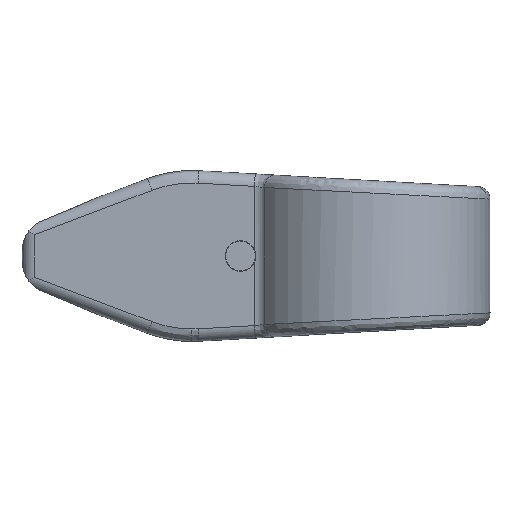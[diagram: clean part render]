
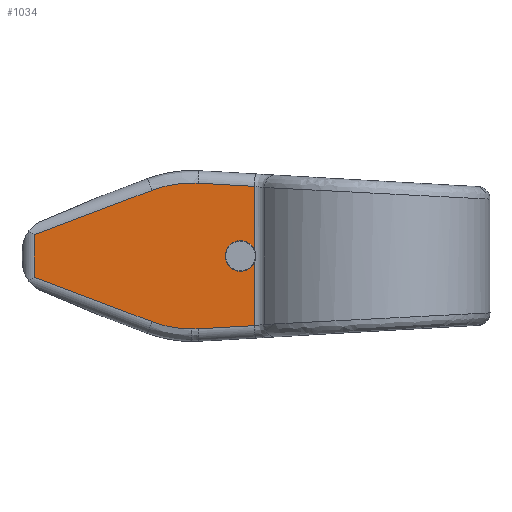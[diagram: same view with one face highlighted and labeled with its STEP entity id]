
A CAD part, left-side view. The second image highlights one B-rep face of the part: STEP entity #1034.
In plain terms, the highlighted planar face has unit normal (-1, 0, 0).
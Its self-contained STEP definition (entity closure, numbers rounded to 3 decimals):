
#33 = VERTEX_POINT ( 'NONE', #2335 ) ;
#64 = DIRECTION ( 'NONE',  ( 0., 0., -1. ) ) ;
#121 = CARTESIAN_POINT ( 'NONE',  ( -11., 29.957, 3.4 ) ) ;
#205 = VECTOR ( 'NONE', #6439, 1000. ) ;
#210 = CIRCLE ( 'NONE', #3615, 2.459 ) ;
#253 = ORIENTED_EDGE ( 'NONE', *, *, #2575, .T. ) ;
#431 = DIRECTION ( 'NONE',  ( 1., 0., 0. ) ) ;
#490 = CARTESIAN_POINT ( 'NONE',  ( -11., 33.139, 25.919 ) ) ;
#787 = DIRECTION ( 'NONE',  ( 0., 0., 1. ) ) ;
#803 = CARTESIAN_POINT ( 'NONE',  ( -11., 26.765, 26.668 ) ) ;
#833 = AXIS2_PLACEMENT_3D ( 'NONE', #5221, #431, #5755 ) ;
#837 = B_SPLINE_CURVE_WITH_KNOTS ( 'NONE', 3,
 ( #2263, #3803, #4938, #121, #3781, #3849 ),
 .UNSPECIFIED., .F., .F.,
 ( 4, 2, 4 ),
 ( 0., 0.5, 1. ),
 .UNSPECIFIED. ) ;
#838 = CARTESIAN_POINT ( 'NONE',  ( -11., 27.449, 3.302 ) ) ;
#886 = CARTESIAN_POINT ( 'NONE',  ( -11., 20., 12.542 ) ) ;
#937 = VERTEX_POINT ( 'NONE', #5609 ) ;
#960 = VERTEX_POINT ( 'NONE', #886 ) ;
#988 = CARTESIAN_POINT ( 'NONE',  ( -11., 27.792, 26.698 ) ) ;
#1026 = EDGE_CURVE ( 'NONE', #2699, #960, #210, .T. ) ;
#1034 = ADVANCED_FACE ( 'NONE', ( #5682 ), #6878, .T. ) ;
#1053 = DIRECTION ( 'NONE',  ( 0., 0., 1. ) ) ;
#1075 = LINE ( 'NONE', #2887, #6357 ) ;
#1088 = ORIENTED_EDGE ( 'NONE', *, *, #2617, .F. ) ;
#1238 = ORIENTED_EDGE ( 'NONE', *, *, #3705, .T. ) ;
#1277 = DIRECTION ( 'NONE',  ( 1., 0., 0. ) ) ;
#1356 = LINE ( 'NONE', #6476, #3804 ) ;
#1389 = EDGE_CURVE ( 'NONE', #2545, #33, #837, .T. ) ;
#1436 = VECTOR ( 'NONE', #5038, 1000. ) ;
#1466 = CARTESIAN_POINT ( 'NONE',  ( -11., 34.156, 25.535 ) ) ;
#1633 = CARTESIAN_POINT ( 'NONE',  ( -11., 34.156, 25.535 ) ) ;
#1658 = ORIENTED_EDGE ( 'NONE', *, *, #4310, .T. ) ;
#1664 = LINE ( 'NONE', #5767, #2559 ) ;
#1781 = CARTESIAN_POINT ( 'NONE',  ( -11., 20., 15. ) ) ;
#1830 = DIRECTION ( 'NONE',  ( 0., -0.998, 0.057 ) ) ;
#1933 = CARTESIAN_POINT ( 'NONE',  ( -11., 27.792, 3.302 ) ) ;
#1966 = CARTESIAN_POINT ( 'NONE',  ( -11., 27.107, 3.312 ) ) ;
#2062 = CARTESIAN_POINT ( 'NONE',  ( -11., 28.879, 26.698 ) ) ;
#2240 = EDGE_CURVE ( 'NONE', #5093, #937, #1356, .T. ) ;
#2263 = CARTESIAN_POINT ( 'NONE',  ( -11., 34.156, 4.465 ) ) ;
#2274 = VERTEX_POINT ( 'NONE', #3974 ) ;
#2335 = CARTESIAN_POINT ( 'NONE',  ( -11., 27.792, 3.302 ) ) ;
#2456 = ORIENTED_EDGE ( 'NONE', *, *, #5346, .T. ) ;
#2545 = VERTEX_POINT ( 'NONE', #5041 ) ;
#2559 = VECTOR ( 'NONE', #64, 1000. ) ;
#2575 = EDGE_CURVE ( 'NONE', #960, #6583, #4217, .T. ) ;
#2617 = EDGE_CURVE ( 'NONE', #5093, #33, #3057, .T. ) ;
#2699 = VERTEX_POINT ( 'NONE', #6387 ) ;
#2707 = ORIENTED_EDGE ( 'NONE', *, *, #3981, .T. ) ;
#2887 = CARTESIAN_POINT ( 'NONE',  ( -11., 17.748, 0. ) ) ;
#3033 = CARTESIAN_POINT ( 'NONE',  ( -11., 17.748, 26.153 ) ) ;
#3057 =( BOUNDED_CURVE ( )  B_SPLINE_CURVE ( 3, ( #5640, #1966, #838, #1933 ),
 .UNSPECIFIED., .F., .F. ) 
 B_SPLINE_CURVE_WITH_KNOTS ( ( 4, 4 ),
 ( 0., 1. ),
 .UNSPECIFIED. ) 
 CURVE ( )  GEOMETRIC_REPRESENTATION_ITEM ( )  RATIONAL_B_SPLINE_CURVE ( ( 1., 1., 1., 1. ) ) 
 REPRESENTATION_ITEM ( '' )  );
#3098 = ORIENTED_EDGE ( 'NONE', *, *, #4358, .T. ) ;
#3099 = ORIENTED_EDGE ( 'NONE', *, *, #1026, .T. ) ;
#3141 = DIRECTION ( 'NONE',  ( 1., 0., 0. ) ) ;
#3161 = CARTESIAN_POINT ( 'NONE',  ( -11., 53., 18.412 ) ) ;
#3164 = CARTESIAN_POINT ( 'NONE',  ( -11., 20., 15. ) ) ;
#3189 = ORIENTED_EDGE ( 'NONE', *, *, #4026, .T. ) ;
#3216 = EDGE_CURVE ( 'NONE', #4331, #5033, #5116, .T. ) ;
#3225 = DIRECTION ( 'NONE',  ( 0., 0., 1. ) ) ;
#3545 = LINE ( 'NONE', #4021, #1436 ) ;
#3593 = VECTOR ( 'NONE', #6744, 1000. ) ;
#3615 = AXIS2_PLACEMENT_3D ( 'NONE', #3164, #3141, #3225 ) ;
#3637 = CIRCLE ( 'NONE', #833, 2.459 ) ;
#3675 = DIRECTION ( 'NONE',  ( -1., 0., 0. ) ) ;
#3700 = CARTESIAN_POINT ( 'NONE',  ( -11., 27.107, 26.688 ) ) ;
#3705 = EDGE_CURVE ( 'NONE', #5183, #5150, #1075, .T. ) ;
#3727 = CARTESIAN_POINT ( 'NONE',  ( -11., 17.748, 26.153 ) ) ;
#3781 = CARTESIAN_POINT ( 'NONE',  ( -11., 28.879, 3.302 ) ) ;
#3803 = CARTESIAN_POINT ( 'NONE',  ( -11., 33.139, 4.081 ) ) ;
#3804 = VECTOR ( 'NONE', #1830, 1000. ) ;
#3849 = CARTESIAN_POINT ( 'NONE',  ( -11., 27.792, 3.302 ) ) ;
#3933 = EDGE_CURVE ( 'NONE', #4331, #4242, #6733, .T. ) ;
#3972 = AXIS2_PLACEMENT_3D ( 'NONE', #5334, #3675, #1053 ) ;
#3974 = CARTESIAN_POINT ( 'NONE',  ( -11., 53., 11.588 ) ) ;
#3981 = EDGE_CURVE ( 'NONE', #937, #2699, #5770, .T. ) ;
#4021 = CARTESIAN_POINT ( 'NONE',  ( -11., 53., 11.588 ) ) ;
#4026 = EDGE_CURVE ( 'NONE', #4748, #2274, #1664, .T. ) ;
#4217 = CIRCLE ( 'NONE', #5383, 2.459 ) ;
#4225 = CARTESIAN_POINT ( 'NONE',  ( -11., 26.765, 26.668 ) ) ;
#4242 = VERTEX_POINT ( 'NONE', #803 ) ;
#4245 = ORIENTED_EDGE ( 'NONE', *, *, #6643, .T. ) ;
#4310 = EDGE_CURVE ( 'NONE', #2274, #2545, #3545, .T. ) ;
#4325 = ORIENTED_EDGE ( 'NONE', *, *, #3216, .T. ) ;
#4331 = VERTEX_POINT ( 'NONE', #5110 ) ;
#4358 = EDGE_CURVE ( 'NONE', #6583, #5183, #3637, .T. ) ;
#4417 = ORIENTED_EDGE ( 'NONE', *, *, #1389, .T. ) ;
#4657 = CARTESIAN_POINT ( 'NONE',  ( -11., 34.156, 25.535 ) ) ;
#4748 = VERTEX_POINT ( 'NONE', #3161 ) ;
#4891 = VECTOR ( 'NONE', #5338, 1000. ) ;
#4938 = CARTESIAN_POINT ( 'NONE',  ( -11., 32.096, 3.791 ) ) ;
#5033 = VERTEX_POINT ( 'NONE', #1466 ) ;
#5038 = DIRECTION ( 'NONE',  ( 0., -0.935, -0.354 ) ) ;
#5041 = CARTESIAN_POINT ( 'NONE',  ( -11., 34.156, 4.465 ) ) ;
#5047 = DIRECTION ( 'NONE',  ( 0., 0., 1. ) ) ;
#5093 = VERTEX_POINT ( 'NONE', #6716 ) ;
#5110 = CARTESIAN_POINT ( 'NONE',  ( -11., 27.792, 26.698 ) ) ;
#5116 = B_SPLINE_CURVE_WITH_KNOTS ( 'NONE', 3,
 ( #988, #2062, #5794, #5741, #490, #4657 ),
 .UNSPECIFIED., .F., .F.,
 ( 4, 2, 4 ),
 ( 0., 0.5, 1. ),
 .UNSPECIFIED. ) ;
#5150 = VERTEX_POINT ( 'NONE', #3727 ) ;
#5183 = VERTEX_POINT ( 'NONE', #6374 ) ;
#5221 = CARTESIAN_POINT ( 'NONE',  ( -11., 20., 15. ) ) ;
#5234 = CARTESIAN_POINT ( 'NONE',  ( -11., 17.748, 0. ) ) ;
#5299 = LINE ( 'NONE', #1633, #4891 ) ;
#5334 = CARTESIAN_POINT ( 'NONE',  ( -11., 17.748, 0. ) ) ;
#5338 = DIRECTION ( 'NONE',  ( 0., 0.935, -0.354 ) ) ;
#5346 = EDGE_CURVE ( 'NONE', #5150, #4242, #5749, .T. ) ;
#5383 = AXIS2_PLACEMENT_3D ( 'NONE', #1781, #1277, #787 ) ;
#5595 = CARTESIAN_POINT ( 'NONE',  ( -11., 27.792, 26.698 ) ) ;
#5609 = CARTESIAN_POINT ( 'NONE',  ( -11., 17.748, 3.847 ) ) ;
#5640 = CARTESIAN_POINT ( 'NONE',  ( -11., 26.765, 3.332 ) ) ;
#5682 = FACE_OUTER_BOUND ( 'NONE', #6231, .T. ) ;
#5735 = CARTESIAN_POINT ( 'NONE',  ( -11., 20., 17.459 ) ) ;
#5741 = CARTESIAN_POINT ( 'NONE',  ( -11., 32.096, 26.209 ) ) ;
#5749 = LINE ( 'NONE', #3033, #3593 ) ;
#5755 = DIRECTION ( 'NONE',  ( 0., 0., 1. ) ) ;
#5767 = CARTESIAN_POINT ( 'NONE',  ( -11., 53., 0. ) ) ;
#5770 = LINE ( 'NONE', #5234, #205 ) ;
#5794 = CARTESIAN_POINT ( 'NONE',  ( -11., 29.957, 26.6 ) ) ;
#5992 = ORIENTED_EDGE ( 'NONE', *, *, #2240, .T. ) ;
#6231 = EDGE_LOOP ( 'NONE', ( #3099, #253, #3098, #1238, #2456, #6275, #4325, #4245, #3189, #1658, #4417, #1088, #5992, #2707 ) ) ;
#6275 = ORIENTED_EDGE ( 'NONE', *, *, #3933, .F. ) ;
#6357 = VECTOR ( 'NONE', #5047, 1000. ) ;
#6374 = CARTESIAN_POINT ( 'NONE',  ( -11., 17.748, 15.987 ) ) ;
#6387 = CARTESIAN_POINT ( 'NONE',  ( -11., 17.748, 14.013 ) ) ;
#6439 = DIRECTION ( 'NONE',  ( 0., 0., 1. ) ) ;
#6476 = CARTESIAN_POINT ( 'NONE',  ( -11., 26.765, 3.332 ) ) ;
#6583 = VERTEX_POINT ( 'NONE', #5735 ) ;
#6643 = EDGE_CURVE ( 'NONE', #5033, #4748, #5299, .T. ) ;
#6716 = CARTESIAN_POINT ( 'NONE',  ( -11., 26.765, 3.332 ) ) ;
#6718 = CARTESIAN_POINT ( 'NONE',  ( -11., 27.449, 26.698 ) ) ;
#6733 =( BOUNDED_CURVE ( )  B_SPLINE_CURVE ( 3, ( #5595, #6718, #3700, #4225 ),
 .UNSPECIFIED., .F., .T. ) 
 B_SPLINE_CURVE_WITH_KNOTS ( ( 4, 4 ),
 ( 0., 1. ),
 .UNSPECIFIED. ) 
 CURVE ( )  GEOMETRIC_REPRESENTATION_ITEM ( )  RATIONAL_B_SPLINE_CURVE ( ( 1., 1., 1., 1. ) ) 
 REPRESENTATION_ITEM ( '' )  );
#6744 = DIRECTION ( 'NONE',  ( 0., 0.998, 0.057 ) ) ;
#6878 = PLANE ( 'NONE',  #3972 ) ;
